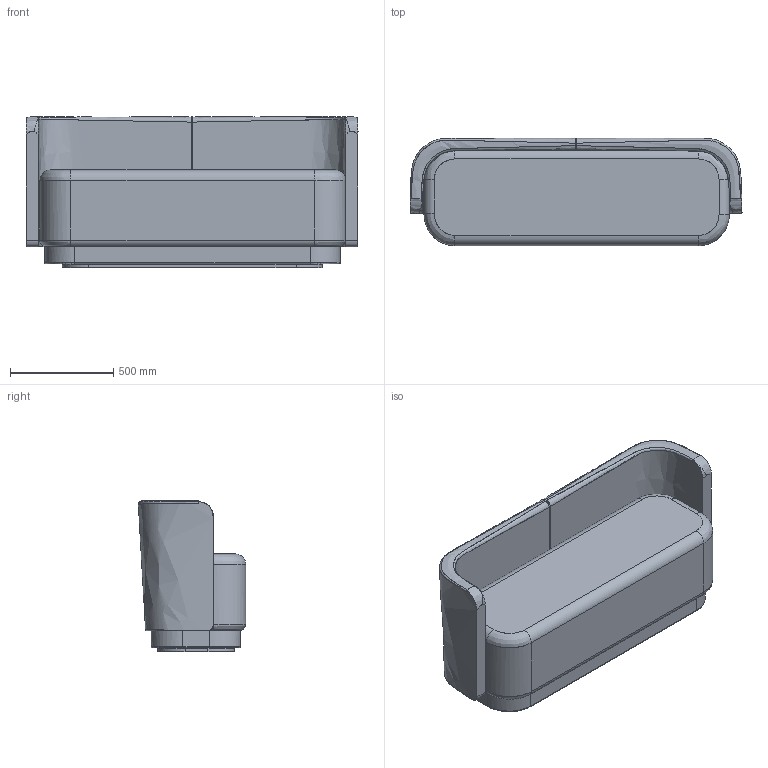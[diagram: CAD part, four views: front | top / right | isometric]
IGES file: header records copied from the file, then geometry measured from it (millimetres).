
Global section: file name: C:\Users\market02\Desktop\RYAN\CARL 107 160\exportation\FCARLCB160_CANAPE BANQUETTE_ARMLESS SOFA_CARL\FCARLCB160_CANAPE BANQUETTE_ARMLESS SOFA_CARL.igs; native system: Rhinoceros ( Dec 14 2021 ); preprocessor: Trout Lake IGES 012 Dec 14 2021; date: 220107.102036; units: centimetre
Bounding box: 1608.56 x 520.11 x 731.64 mm (x, y, z)
Surface area: 13046666.1 mm2 (no closed solid volume)
Topology: 0 solids, 0 shells, 162 faces, 2107 edges, 2097 vertices
Faces by surface type: bspline 162
